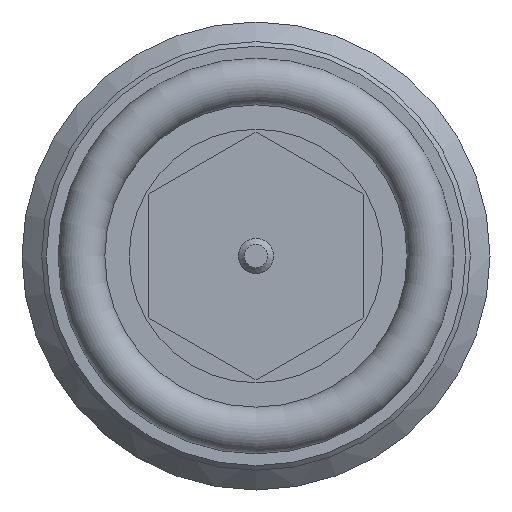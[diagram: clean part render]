
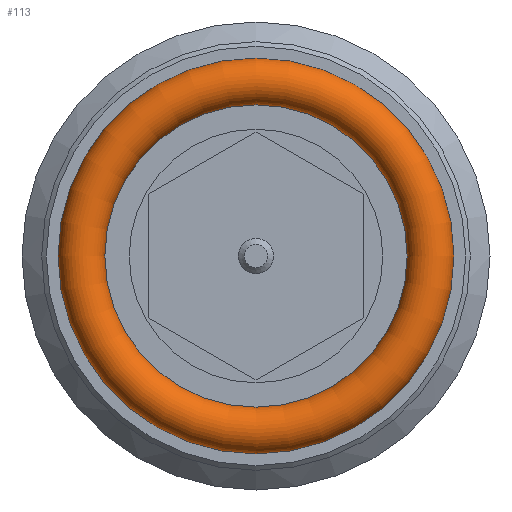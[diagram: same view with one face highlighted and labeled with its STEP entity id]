
A CAD part, front view. The second image highlights one B-rep face of the part: STEP entity #113.
In plain terms, the highlighted toroidal (fillet/blend) face has major radius 8.95 mm and minor radius 1.2 mm.
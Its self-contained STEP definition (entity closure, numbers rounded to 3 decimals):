
#113 = ADVANCED_FACE( '', ( #236, #237 ), #238, .T. );
#236 = FACE_OUTER_BOUND( '', #353, .T. );
#237 = FACE_OUTER_BOUND( '', #354, .T. );
#238 = TOROIDAL_SURFACE( '', #355, 8.95, 1.2 );
#353 = EDGE_LOOP( '', ( #578 ) );
#354 = EDGE_LOOP( '', ( #579 ) );
#355 = AXIS2_PLACEMENT_3D( '', #580, #581, #582 );
#578 = ORIENTED_EDGE( '', *, *, #645, .T. );
#579 = ORIENTED_EDGE( '', *, *, #609, .F. );
#580 = CARTESIAN_POINT( '', ( 0., -30., 0. ) );
#581 = DIRECTION( '', ( 0., -1., 0. ) );
#582 = DIRECTION( '', ( 0., 0., -1. ) );
#609 = EDGE_CURVE( '', #705, #705, #706, .T. );
#645 = EDGE_CURVE( '', #762, #762, #763, .T. );
#705 = VERTEX_POINT( '', #839 );
#706 = CIRCLE( '', #840, 7.75 );
#762 = VERTEX_POINT( '', #912 );
#763 = CIRCLE( '', #913, 10.15 );
#839 = CARTESIAN_POINT( '', ( 0., -30., -7.75 ) );
#840 = AXIS2_PLACEMENT_3D( '', #977, #978, #979 );
#912 = CARTESIAN_POINT( '', ( 0., -30., -10.15 ) );
#913 = AXIS2_PLACEMENT_3D( '', #1020, #1021, #1022 );
#977 = CARTESIAN_POINT( '', ( 0., -30., 0. ) );
#978 = DIRECTION( '', ( 0., -1., 0. ) );
#979 = DIRECTION( '', ( 0., 0., -1. ) );
#1020 = CARTESIAN_POINT( '', ( 0., -30., 0. ) );
#1021 = DIRECTION( '', ( 0., -1., 0. ) );
#1022 = DIRECTION( '', ( 0., 0., -1. ) );
